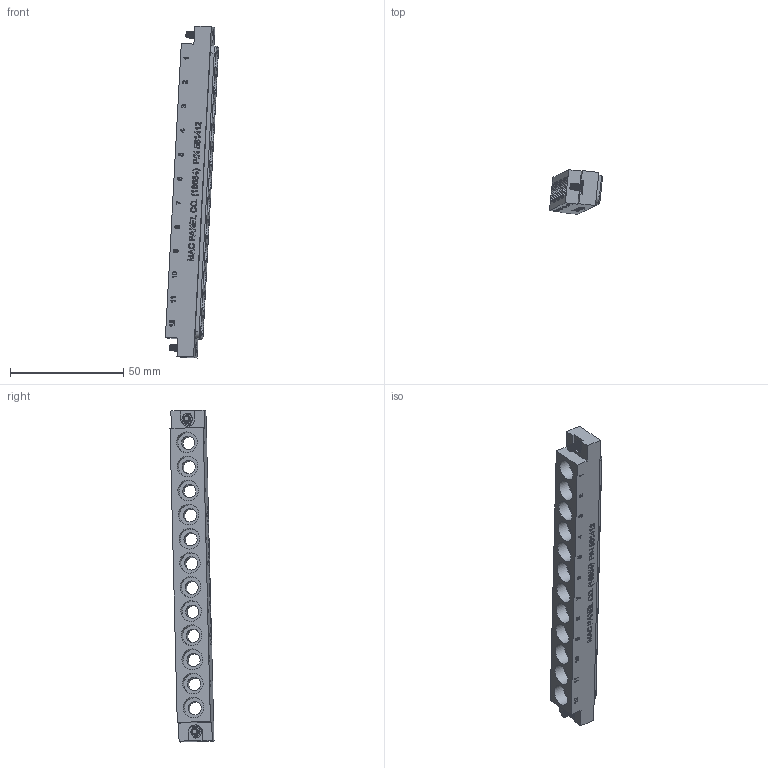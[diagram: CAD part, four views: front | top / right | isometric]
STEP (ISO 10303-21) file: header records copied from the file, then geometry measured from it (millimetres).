
FILE_DESCRIPTION((''),'2;1');
FILE_NAME('C:\old_Drawings\shrinkwrapped website .stp files\561412-STP.stp','2011-05-25T13:49:05',('GaryRobinson'),(''),'Autodesk Inventor 2011','Autodesk Inventor 2011','');
FILE_SCHEMA(('CONFIG_CONTROL_DESIGN'));
Length unit declared in the file: inch
Products named in the file (1): 561412-STP
Bounding box: 23.51 x 19.45 x 146.62 mm (x, y, z)
Surface area: 13308.9 mm2 (no closed solid volume)
Topology: 0 solids, 5 shells, 732 faces, 1871 edges, 1242 vertices
Faces by surface type: plane 388, bspline 246, cylinder 88, cone 10
Full cylindrical faces by diameter (mm): 2.381 x2, 2.845 x12, 3.429 x2, 3.962 x4, 4.064 x2, 5.08 x2, 5.461 x2, 5.842 x12, 8.89 x12, 9.144 x12
Entity records: 24381 total; most frequent: CARTESIAN_POINT 8010, ORIENTED_EDGE 3538, DIRECTION 2361, EDGE_CURVE 1769, VERTEX_POINT 1212, VECTOR 1083, LINE 1083, EDGE_LOOP 897
